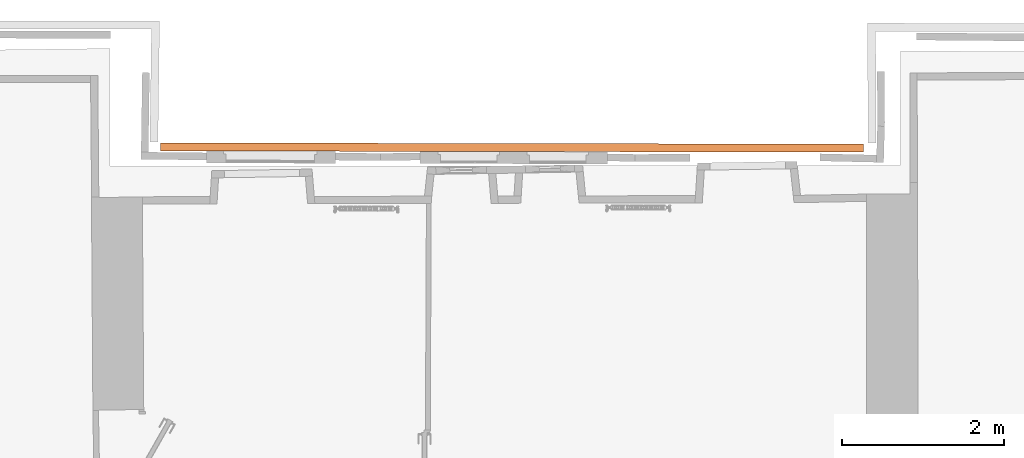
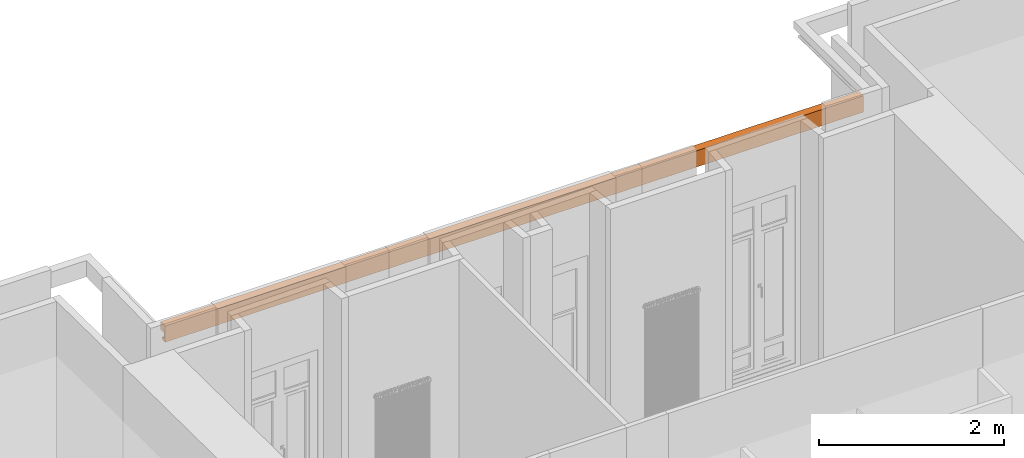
# One storey, part 60 of 66: 1 proxy.
"""IFC2X3 building model written with IfcOpenShell, lengths in centimetres."""

from ifc_helpers import new_model, entity, si_unit, converted_unit, point, direction, frame, frame_2d, origin, origin_with_axes, place, context, subcontext, project, spatial, polyline, circle_curve, trimmed, segment, composite_curve, outline, extrude, source, transform, mapped, material, type_object, element, save


model = new_model("IFC2X3")

# Units and contexts
model_context = context("Model", 3, precision=0.0001, world=origin(), true_north=direction((0.225632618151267, 0.974212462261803, 0.0)))
body_context = subcontext(model_context, "Body", "Model", "MODEL_VIEW")
ifc_project = project(units=[si_unit("LENGTHUNIT", "METRE", prefix="CENTI"), si_unit("AREAUNIT", "SQUARE_METRE", prefix="CENTI"), si_unit("VOLUMEUNIT", "CUBIC_METRE", prefix="CENTI"), converted_unit("PLANEANGLEUNIT", "DEGREE", entity("IfcRatioMeasure", 0.0174532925), si_unit("PLANEANGLEUNIT", "RADIAN"), dimensions=[0, 0, 0, 0, 0, 0, 0])], contexts=[model_context])

# Site, building, storey
site_placement = place(None, origin_with_axes())
site = spatial("IfcSite", under=ifc_project, at=site_placement, Name="Default Site", CompositionType="ELEMENT")
building_placement = place(site_placement, origin_with_axes())
building = spatial("IfcBuilding", under=site, at=building_placement, Name="Default Building", CompositionType="ELEMENT")
storey_placement = place(building_placement, frame((0.0, 0.0, 477.795358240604), z_axis=(0.0, 0.0, 1.0), x_axis=(1.0, 0.0, 0.0)))
storey = spatial("IfcBuildingStorey", under=building, at=storey_placement, Name="Niveau 1", CompositionType="ELEMENT", Elevation=477.795358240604)

# Proxy
ifc_material = material(Name="Aluminium mat")
building_element_proxy_type = type_object("IfcBuildingElementProxyType", Name="Corniche niv1", PredefinedType="NOTDEFINED", material=ifc_material)
shared_shape = source(origin_with_axes(), body_context, "Body", "SweptSolid", [
    extrude(outline(composite_curve([segment(trimmed(circle_curve(frame_2d((0.268889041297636, 10.5360105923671), x_axis=(1.0, 0.0)), 2.2994959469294), [point((1.31060948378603, 8.48601056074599))], [point((1.31060948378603, 12.5860106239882))], True, "CARTESIAN"), True, "CONTINUOUS"), segment(polyline([(1.31060948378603, 12.5860106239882), (-4.15787333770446, 12.5860106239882), (-4.15787333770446, -8.8139892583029), (5.82834186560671, -8.8139892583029), (5.82834186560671, 1.18601056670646), (-1.15787333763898, 1.18601056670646), (-1.15787333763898, 8.48601056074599), (1.31060948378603, 8.48601056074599)]), True, "CONTINUOUS")], self_intersect=False)), origin_with_axes(), (0.0, 0.0, 1.0), 100.0),
])
proxy_placement = place(storey_placement, frame((-640.264298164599, 612.489814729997, 343.0), z_axis=(-0.999998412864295, 0.00178164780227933, 4.81482486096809e-35), x_axis=(0.00178164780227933, 0.999998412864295, 1.22464679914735e-16)))
element("IfcBuildingElementProxy", 1, at=proxy_placement, inside=storey, type_object=building_element_proxy_type, material=ifc_material, Name="Extrusion (solide) 449950", context=body_context, shape_type="MappedRepresentation", body=[
    mapped(shared_shape, transform((4.15787333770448, -12.586010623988, 8.88178419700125e-14), x_axis=(1.0, 0.0, 2.16840434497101e-19), y_axis=(0.0, 1.0, 2.13821176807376e-50), z_axis=(-3.98811907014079e-19, -4.04057837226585e-35, -1.0), scale=1.0, scale2=1.0, scale3=8.69945678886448, uniform=False)),
])

save(model, "model.ifc")
